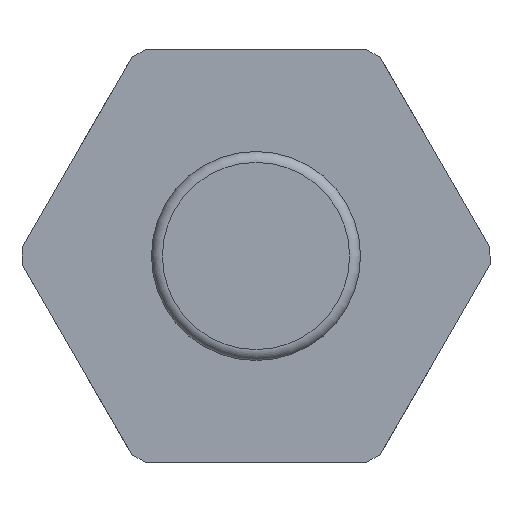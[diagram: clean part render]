
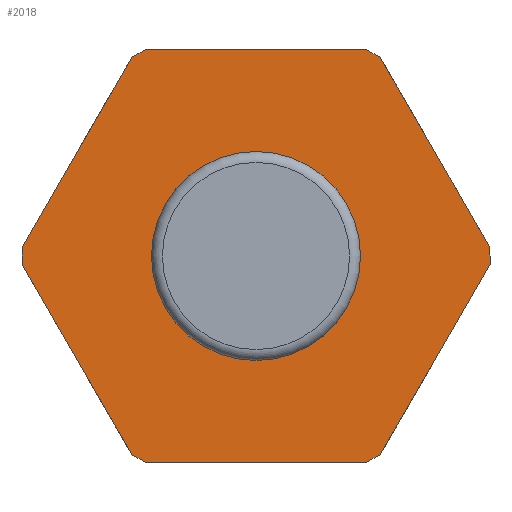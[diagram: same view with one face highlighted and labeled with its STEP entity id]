
A CAD part, front view. The second image highlights one B-rep face of the part: STEP entity #2018.
In plain terms, the highlighted planar face has unit normal (0, -1, 0).
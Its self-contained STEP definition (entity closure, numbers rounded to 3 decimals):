
#19 = EDGE_CURVE ( 'NONE', #2205, #2274, #1256, .T. ) ;
#31 = ORIENTED_EDGE ( 'NONE', *, *, #1717, .T. ) ;
#66 = DIRECTION ( 'NONE',  ( 0., -1., 0. ) ) ;
#85 = CARTESIAN_POINT ( 'NONE',  ( 0., 0., -12.413 ) ) ;
#165 = CARTESIAN_POINT ( 'NONE',  ( -5.485, 0., 9.5 ) ) ;
#174 = VERTEX_POINT ( 'NONE', #1660 ) ;
#177 = ORIENTED_EDGE ( 'NONE', *, *, #1438, .T. ) ;
#192 = VERTEX_POINT ( 'NONE', #1404 ) ;
#262 = ORIENTED_EDGE ( 'NONE', *, *, #714, .T. ) ;
#282 = ORIENTED_EDGE ( 'NONE', *, *, #816, .T. ) ;
#324 = VERTEX_POINT ( 'NONE', #797 ) ;
#336 = VECTOR ( 'NONE', #1859, 1000. ) ;
#388 = DIRECTION ( 'NONE',  ( 0., -1., 0. ) ) ;
#395 = CARTESIAN_POINT ( 'NONE',  ( 0., 0., 12.413 ) ) ;
#407 = ORIENTED_EDGE ( 'NONE', *, *, #1990, .T. ) ;
#446 = LINE ( 'NONE', #395, #1506 ) ;
#456 = VECTOR ( 'NONE', #2786, 1000. ) ;
#476 = VECTOR ( 'NONE', #831, 1000. ) ;
#479 = EDGE_CURVE ( 'NONE', #876, #2442, #2787, .T. ) ;
#514 = CARTESIAN_POINT ( 'NONE',  ( 5.704, 0., 9.12 ) ) ;
#577 = ORIENTED_EDGE ( 'NONE', *, *, #766, .T. ) ;
#599 = DIRECTION ( 'NONE',  ( -1., 0., 0. ) ) ;
#604 = DIRECTION ( 'NONE',  ( 0., 0., -1. ) ) ;
#680 = CARTESIAN_POINT ( 'NONE',  ( -10.75, 0., -0.38 ) ) ;
#689 = DIRECTION ( 'NONE',  ( 0., 0., -1. ) ) ;
#714 = EDGE_CURVE ( 'NONE', #2172, #174, #1670, .T. ) ;
#718 = VECTOR ( 'NONE', #2105, 1000. ) ;
#746 = VECTOR ( 'NONE', #1416, 1000. ) ;
#756 = CARTESIAN_POINT ( 'NONE',  ( 5.046, 0., 9.5 ) ) ;
#766 = EDGE_CURVE ( 'NONE', #324, #2172, #1167, .T. ) ;
#796 = CARTESIAN_POINT ( 'NONE',  ( -5.485, 0., -9.5 ) ) ;
#797 = CARTESIAN_POINT ( 'NONE',  ( -5.704, 0., -9.12 ) ) ;
#816 = EDGE_CURVE ( 'NONE', #2274, #888, #1150, .T. ) ;
#831 = DIRECTION ( 'NONE',  ( 0.866, 0., -0.5 ) ) ;
#834 = CARTESIAN_POINT ( 'NONE',  ( -5.046, 0., -9.5 ) ) ;
#856 = VECTOR ( 'NONE', #599, 1000. ) ;
#858 = LINE ( 'NONE', #1132, #1795 ) ;
#867 = DIRECTION ( 'NONE',  ( -0.866, 0., 0.5 ) ) ;
#876 = VERTEX_POINT ( 'NONE', #2893 ) ;
#888 = VERTEX_POINT ( 'NONE', #1763 ) ;
#957 = VERTEX_POINT ( 'NONE', #680 ) ;
#1014 = VERTEX_POINT ( 'NONE', #1984 ) ;
#1056 = EDGE_CURVE ( 'NONE', #1530, #1530, #1761, .T. ) ;
#1064 = ORIENTED_EDGE ( 'NONE', *, *, #2536, .T. ) ;
#1124 = VECTOR ( 'NONE', #2013, 1000. ) ;
#1132 = CARTESIAN_POINT ( 'NONE',  ( -10.97, 0., 0. ) ) ;
#1134 = EDGE_LOOP ( 'NONE', ( #1539, #1462, #1064, #1532, #282, #177, #407, #2251, #31, #577, #262, #1756 ) ) ;
#1145 = EDGE_CURVE ( 'NONE', #192, #957, #1231, .T. ) ;
#1150 = LINE ( 'NONE', #2181, #856 ) ;
#1167 = LINE ( 'NONE', #2170, #476 ) ;
#1219 = CARTESIAN_POINT ( 'NONE',  ( 10.97, 0., 0. ) ) ;
#1231 = LINE ( 'NONE', #2516, #2433 ) ;
#1256 = LINE ( 'NONE', #1303, #2106 ) ;
#1263 = CARTESIAN_POINT ( 'NONE',  ( 10.75, 0., -0.38 ) ) ;
#1267 = EDGE_CURVE ( 'NONE', #174, #876, #2674, .T. ) ;
#1292 = AXIS2_PLACEMENT_3D ( 'NONE', #2037, #66, #1577 ) ;
#1303 = CARTESIAN_POINT ( 'NONE',  ( 10.75, 0., 6.207 ) ) ;
#1306 = DIRECTION ( 'NONE',  ( -0.866, 0., -0.5 ) ) ;
#1390 = FACE_BOUND ( 'NONE', #2321, .T. ) ;
#1404 = CARTESIAN_POINT ( 'NONE',  ( -10.75, 0., 0.38 ) ) ;
#1416 = DIRECTION ( 'NONE',  ( -0.5, 0., 0.866 ) ) ;
#1430 = LINE ( 'NONE', #2117, #336 ) ;
#1438 = EDGE_CURVE ( 'NONE', #888, #1936, #446, .T. ) ;
#1462 = ORIENTED_EDGE ( 'NONE', *, *, #1866, .T. ) ;
#1467 = FACE_OUTER_BOUND ( 'NONE', #1134, .T. ) ;
#1496 = VECTOR ( 'NONE', #2354, 1000. ) ;
#1506 = VECTOR ( 'NONE', #1306, 1000. ) ;
#1530 = VERTEX_POINT ( 'NONE', #2283 ) ;
#1532 = ORIENTED_EDGE ( 'NONE', *, *, #19, .T. ) ;
#1539 = ORIENTED_EDGE ( 'NONE', *, *, #479, .T. ) ;
#1549 = CARTESIAN_POINT ( 'NONE',  ( 5.485, 0., -9.5 ) ) ;
#1577 = DIRECTION ( 'NONE',  ( 0., 0., -1. ) ) ;
#1660 = CARTESIAN_POINT ( 'NONE',  ( 5.046, 0., -9.5 ) ) ;
#1670 = LINE ( 'NONE', #796, #456 ) ;
#1717 = EDGE_CURVE ( 'NONE', #957, #324, #858, .T. ) ;
#1725 = CARTESIAN_POINT ( 'NONE',  ( -5.704, 0., 9.12 ) ) ;
#1756 = ORIENTED_EDGE ( 'NONE', *, *, #1267, .T. ) ;
#1761 = CIRCLE ( 'NONE', #1292, 4.8 ) ;
#1763 = CARTESIAN_POINT ( 'NONE',  ( -5.046, 0., 9.5 ) ) ;
#1795 = VECTOR ( 'NONE', #2081, 1000. ) ;
#1859 = DIRECTION ( 'NONE',  ( 0., 0., 1. ) ) ;
#1866 = EDGE_CURVE ( 'NONE', #2442, #1014, #1430, .T. ) ;
#1914 = PLANE ( 'NONE',  #2400 ) ;
#1933 = ORIENTED_EDGE ( 'NONE', *, *, #1056, .F. ) ;
#1936 = VERTEX_POINT ( 'NONE', #1725 ) ;
#1937 = LINE ( 'NONE', #1219, #746 ) ;
#1984 = CARTESIAN_POINT ( 'NONE',  ( 10.75, 0., 0.38 ) ) ;
#1990 = EDGE_CURVE ( 'NONE', #1936, #192, #2427, .T. ) ;
#2013 = DIRECTION ( 'NONE',  ( 0.5, 0., 0.866 ) ) ;
#2018 = ADVANCED_FACE ( 'NONE', ( #1390, #1467 ), #1914, .T. ) ;
#2037 = CARTESIAN_POINT ( 'NONE',  ( 0., 0., 0. ) ) ;
#2081 = DIRECTION ( 'NONE',  ( 0.5, 0., -0.866 ) ) ;
#2105 = DIRECTION ( 'NONE',  ( 0.866, 0., 0.5 ) ) ;
#2106 = VECTOR ( 'NONE', #867, 1000. ) ;
#2117 = CARTESIAN_POINT ( 'NONE',  ( 10.75, 0., -6.207 ) ) ;
#2132 = CARTESIAN_POINT ( 'NONE',  ( 5.025, 0., 0. ) ) ;
#2170 = CARTESIAN_POINT ( 'NONE',  ( -10.75, 0., -6.207 ) ) ;
#2172 = VERTEX_POINT ( 'NONE', #834 ) ;
#2181 = CARTESIAN_POINT ( 'NONE',  ( 5.485, 0., 9.5 ) ) ;
#2205 = VERTEX_POINT ( 'NONE', #514 ) ;
#2251 = ORIENTED_EDGE ( 'NONE', *, *, #1145, .T. ) ;
#2274 = VERTEX_POINT ( 'NONE', #756 ) ;
#2283 = CARTESIAN_POINT ( 'NONE',  ( 0., 0., -4.8 ) ) ;
#2321 = EDGE_LOOP ( 'NONE', ( #1933 ) ) ;
#2354 = DIRECTION ( 'NONE',  ( -0.5, 0., -0.866 ) ) ;
#2400 = AXIS2_PLACEMENT_3D ( 'NONE', #2132, #388, #604 ) ;
#2427 = LINE ( 'NONE', #165, #1496 ) ;
#2433 = VECTOR ( 'NONE', #689, 1000. ) ;
#2442 = VERTEX_POINT ( 'NONE', #1263 ) ;
#2516 = CARTESIAN_POINT ( 'NONE',  ( -10.75, 0., 6.207 ) ) ;
#2536 = EDGE_CURVE ( 'NONE', #1014, #2205, #1937, .T. ) ;
#2674 = LINE ( 'NONE', #85, #718 ) ;
#2786 = DIRECTION ( 'NONE',  ( 1., 0., 0. ) ) ;
#2787 = LINE ( 'NONE', #1549, #1124 ) ;
#2893 = CARTESIAN_POINT ( 'NONE',  ( 5.704, 0., -9.12 ) ) ;
